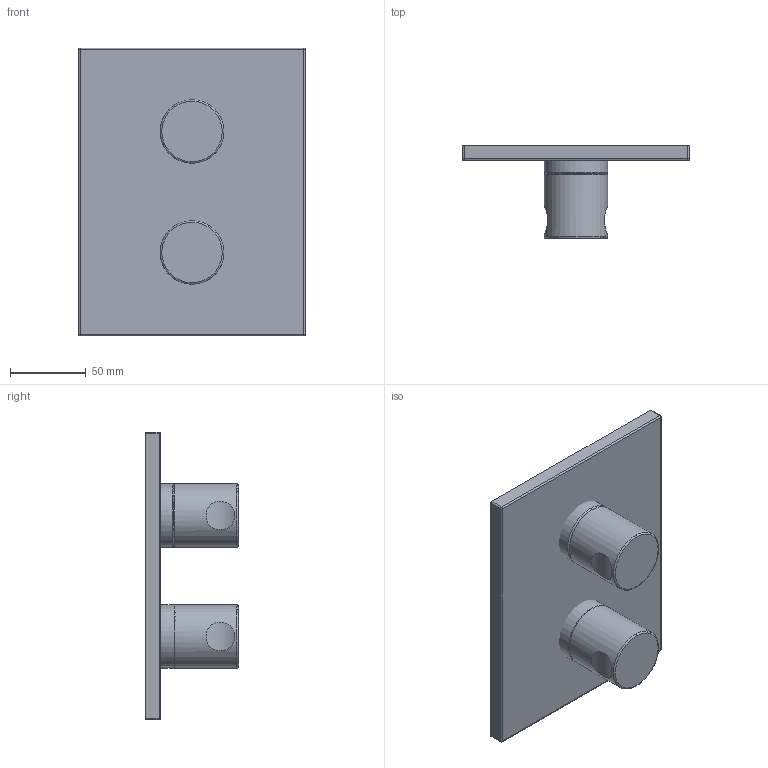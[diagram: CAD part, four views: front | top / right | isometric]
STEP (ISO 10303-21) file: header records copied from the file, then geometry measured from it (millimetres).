
FILE_DESCRIPTION(/* description */ (''),/* implementation_level */ '2;1');
FILE_NAME(/* name */ 'TVD00065200061_asm.step',/* time_stamp */ '2022-12-06T15:10:48+01:00',/* author */ (''),/* organization */ (''),/* preprocessor_version */ 'ST-DEVELOPER v19.2',/* originating_system */ 'Autodesk Translation Framework v11.17.0.187',/* authorisation */ '');
FILE_SCHEMA (('AUTOMOTIVE_DESIGN { 1 0 10303 214 3 1 1 }'));
Length unit declared in the file: millimetre
Products named in the file (43): (Nicht gespeichert); 80TN6300M; J60206; 8YG68009; 8XT24305; 81T6311; 84T68009; 8TH68009; 8PD12X8X08; 81P20EV62; JB6311SD00; 80TN6211G; 8XJ222X128X6; 80TN6311; 81P20PV83; 8RM4X25; 83P24JW33; 80P20EV62; 8EM5X5; 80N16494; 82P24J63; 8TH67R87; 82P24J52; 8MB618306_ASM; 80W618306; 80W14418; 8J487X35A; 85TN6300G; 8J22X2A; 8J18X2A; 86TN6300; J92030DM; 81T23187G; 8J128X18A; 104F680HY; 8AM6X8; 86BN0000; 8XJBN003; 8PM5X50; 8XJBN004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
Assembly tree (63 placements, depth 3):
  (Nicht gespeichert)
    80TN6300M
    J60206
    8YG68009
    8XT24305
    81T6311
    84T68009
    8TH68009
    8PD12X8X08
    81P20PV83  x2
    81P20EV62
    JB6311SD00
    80TN6211G
    8XJ222X128X6
    80TN6311
    8RM4X25
    83P24JW33
    80P20EV62
    8EM5X5  x2
    80N16494  x2
    82P24J63
    8TH67R87
    82P24J52
    8MB618306_ASM
      80W618306
      80W14418  x2
    8J487X35A  x2
    85TN6300G  x2
    8J22X2A  x2
    8J18X2A  x4
    86TN6300  x2
    J92030DM  x2
    81T23187G  x2
    8J128X18A  x2
    8J171X24A  x4
    8XJBN004  x2
    104F680HY
    8AM6X8
    86BN0000
    8XJBN003
    8PM5X50  x4
    8BS25
    8BS40X112
Bounding box: 150 x 61.5 x 190 mm (x, y, z)
Volume: 453399.3 mm3; surface area: 90698.1 mm2
Topology: 5 solids, 5 shells, 46 faces, 86 edges, 54 vertices
Faces by surface type: plane 20, cylinder 18, torus 4, sphere 4
Full cylindrical faces by diameter (mm): 32 x1, 34 x1, 42 x4
Entity records: 2819 total; most frequent: CARTESIAN_POINT 492, DIRECTION 428, AXIS2_PLACEMENT_3D 196, ORIENTED_EDGE 172, PRODUCT_DEFINITION_SHAPE 106, EDGE_CURVE 86, DERIVED_UNIT_ELEMENT 82, PROPERTY_DEFINITION_REPRESENTATION 82
